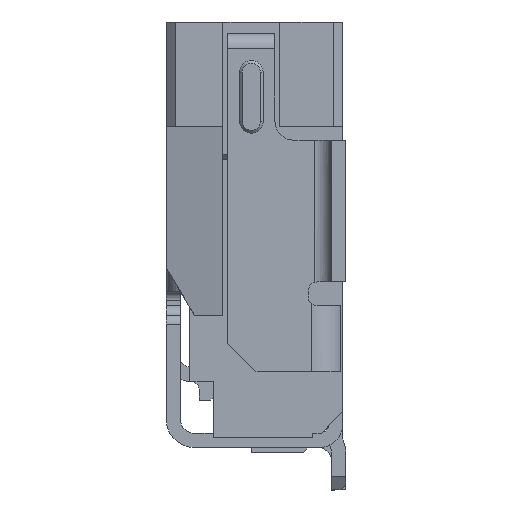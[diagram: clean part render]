
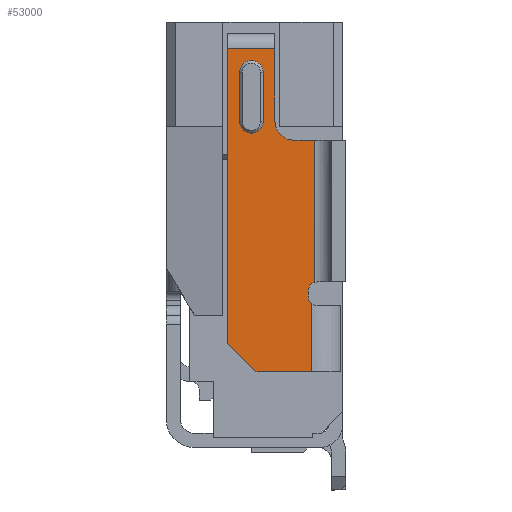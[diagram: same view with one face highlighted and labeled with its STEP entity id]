
A CAD part, left-side view. The second image highlights one B-rep face of the part: STEP entity #53000.
In plain terms, the highlighted planar face has unit normal (-1, 0, 0).
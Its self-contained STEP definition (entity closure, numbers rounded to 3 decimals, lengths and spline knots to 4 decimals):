
#1273 = VERTEX_POINT ( 'NONE', #27736 ) ;
#2344 = EDGE_CURVE ( 'NONE', #31735, #28872, #53810, .T. ) ;
#2533 = LINE ( 'NONE', #46653, #8216 ) ;
#3152 = DIRECTION ( 'NONE',  ( -1., 0., 0. ) ) ;
#3170 = ORIENTED_EDGE ( 'NONE', *, *, #46548, .F. ) ;
#3626 = AXIS2_PLACEMENT_3D ( 'NONE', #42837, #57767, #42517 ) ;
#4822 = CARTESIAN_POINT ( 'NONE',  ( -12.235, 0.34, 2.695 ) ) ;
#5136 = DIRECTION ( 'NONE',  ( 0., 1., 0. ) ) ;
#5339 = CARTESIAN_POINT ( 'NONE',  ( -12.235, 0.33, 1.725 ) ) ;
#5684 = EDGE_CURVE ( 'NONE', #16834, #59102, #38097, .T. ) ;
#6282 = ORIENTED_EDGE ( 'NONE', *, *, #6446, .F. ) ;
#6334 = DIRECTION ( 'NONE',  ( -1., 0., 0. ) ) ;
#6441 = AXIS2_PLACEMENT_3D ( 'NONE', #9264, #34237, #43949 ) ;
#6446 = EDGE_CURVE ( 'NONE', #56746, #28872, #56052, .T. ) ;
#7727 = CIRCLE ( 'NONE', #3626, 0.1 ) ;
#8216 = VECTOR ( 'NONE', #62210, 1000. ) ;
#8249 = ORIENTED_EDGE ( 'NONE', *, *, #43824, .F. ) ;
#8639 = EDGE_CURVE ( 'NONE', #1273, #9562, #24523, .T. ) ;
#9264 = CARTESIAN_POINT ( 'NONE',  ( -12.235, 0.3, 0.075 ) ) ;
#9292 = CARTESIAN_POINT ( 'NONE',  ( -12.235, 1., 1.925 ) ) ;
#9562 = VERTEX_POINT ( 'NONE', #64146 ) ;
#10118 = ORIENTED_EDGE ( 'NONE', *, *, #8639, .F. ) ;
#10244 = ORIENTED_EDGE ( 'NONE', *, *, #2344, .T. ) ;
#10539 = EDGE_CURVE ( 'NONE', #56746, #34884, #41815, .T. ) ;
#11511 = VERTEX_POINT ( 'NONE', #21100 ) ;
#11533 = DIRECTION ( 'NONE',  ( 0., 0., 1. ) ) ;
#11818 = ORIENTED_EDGE ( 'NONE', *, *, #23970, .T. ) ;
#11916 = EDGE_CURVE ( 'NONE', #9562, #40771, #40471, .T. ) ;
#12568 = CARTESIAN_POINT ( 'NONE',  ( -12.235, 1.25, -0.425 ) ) ;
#13204 = CARTESIAN_POINT ( 'NONE',  ( -12.235, 0., -0.725 ) ) ;
#13368 = VECTOR ( 'NONE', #60263, 1000. ) ;
#13468 = EDGE_CURVE ( 'NONE', #44143, #45513, #31327, .T. ) ;
#15125 = DIRECTION ( 'NONE',  ( -1., 0., 0. ) ) ;
#16834 = VERTEX_POINT ( 'NONE', #63269 ) ;
#17036 = CARTESIAN_POINT ( 'NONE',  ( -12.235, 1., 2.445 ) ) ;
#17759 = ORIENTED_EDGE ( 'NONE', *, *, #64006, .T. ) ;
#18058 = CARTESIAN_POINT ( 'NONE',  ( -12.235, 1.125, 2.445 ) ) ;
#18897 = VECTOR ( 'NONE', #42390, 1000. ) ;
#19302 = LINE ( 'NONE', #5339, #34247 ) ;
#19355 = DIRECTION ( 'NONE',  ( 0., -1., 0. ) ) ;
#19475 = VECTOR ( 'NONE', #51876, 1000. ) ;
#19780 = VERTEX_POINT ( 'NONE', #29050 ) ;
#20211 = CARTESIAN_POINT ( 'NONE',  ( -12.235, 1.25, 2.695 ) ) ;
#21100 = CARTESIAN_POINT ( 'NONE',  ( -12.235, 0.33, 0.2204 ) ) ;
#21514 = CARTESIAN_POINT ( 'NONE',  ( -12.235, 0.4, 0.125 ) ) ;
#21670 = VECTOR ( 'NONE', #47997, 1000. ) ;
#22942 = DIRECTION ( 'NONE',  ( 0., 1., 0. ) ) ;
#23361 = VECTOR ( 'NONE', #5136, 1000. ) ;
#23798 = DIRECTION ( 'NONE',  ( 0., -1., 0. ) ) ;
#23970 = EDGE_CURVE ( 'NONE', #58334, #44143, #48901, .T. ) ;
#24234 = FACE_BOUND ( 'NONE', #60143, .T. ) ;
#24523 = CIRCLE ( 'NONE', #57658, 0.2 ) ;
#24550 = PLANE ( 'NONE',  #43350 ) ;
#24822 = CARTESIAN_POINT ( 'NONE',  ( -12.235, 1.125, 1.925 ) ) ;
#25318 = ORIENTED_EDGE ( 'NONE', *, *, #55096, .F. ) ;
#25367 = ORIENTED_EDGE ( 'NONE', *, *, #5684, .F. ) ;
#26068 = CARTESIAN_POINT ( 'NONE',  ( -12.235, 1.125, 1.925 ) ) ;
#26881 = CARTESIAN_POINT ( 'NONE',  ( -12.235, 0.4, 0.075 ) ) ;
#27736 = CARTESIAN_POINT ( 'NONE',  ( -12.235, 0.75, 1.925 ) ) ;
#27744 = AXIS2_PLACEMENT_3D ( 'NONE', #17036, #6334, #45909 ) ;
#28290 = CARTESIAN_POINT ( 'NONE',  ( -12.235, 0.36, -0.005 ) ) ;
#28872 = VERTEX_POINT ( 'NONE', #20211 ) ;
#29050 = CARTESIAN_POINT ( 'NONE',  ( -12.235, 0.875, 1.925 ) ) ;
#29125 = CARTESIAN_POINT ( 'NONE',  ( -12.235, 0.36, -0.725 ) ) ;
#30377 = CARTESIAN_POINT ( 'NONE',  ( -12.235, 0.4, 0. ) ) ;
#31327 = LINE ( 'NONE', #30377, #47732 ) ;
#31605 = CARTESIAN_POINT ( 'NONE',  ( -12.235, 0.95, -0.725 ) ) ;
#31735 = VERTEX_POINT ( 'NONE', #44403 ) ;
#33163 = CIRCLE ( 'NONE', #64083, 0.125 ) ;
#34237 = DIRECTION ( 'NONE',  ( 1., 0., 0. ) ) ;
#34247 = VECTOR ( 'NONE', #39078, 1000. ) ;
#34474 = ORIENTED_EDGE ( 'NONE', *, *, #45593, .F. ) ;
#34590 = FACE_OUTER_BOUND ( 'NONE', #56659, .T. ) ;
#34884 = VERTEX_POINT ( 'NONE', #31605 ) ;
#36630 = CARTESIAN_POINT ( 'NONE',  ( -12.235, 1.25, -0.425 ) ) ;
#37487 = ORIENTED_EDGE ( 'NONE', *, *, #11916, .F. ) ;
#37941 = CARTESIAN_POINT ( 'NONE',  ( -12.235, 0.36, -0.025 ) ) ;
#38097 = CIRCLE ( 'NONE', #27744, 0.125 ) ;
#38348 = EDGE_CURVE ( 'NONE', #19780, #16834, #52528, .T. ) ;
#38703 = DIRECTION ( 'NONE',  ( -1., 0., 0. ) ) ;
#38741 = VECTOR ( 'NONE', #63463, 1000. ) ;
#38761 = EDGE_CURVE ( 'NONE', #54580, #19780, #33163, .T. ) ;
#39078 = DIRECTION ( 'NONE',  ( 0., 0., -1. ) ) ;
#39732 = ORIENTED_EDGE ( 'NONE', *, *, #10539, .T. ) ;
#40471 = LINE ( 'NONE', #52055, #13368 ) ;
#40699 = VECTOR ( 'NONE', #61074, 1000. ) ;
#40771 = VERTEX_POINT ( 'NONE', #41916 ) ;
#41274 = LINE ( 'NONE', #26068, #40699 ) ;
#41815 = LINE ( 'NONE', #55792, #19475 ) ;
#41916 = CARTESIAN_POINT ( 'NONE',  ( -12.235, 0.33, 1.725 ) ) ;
#42390 = DIRECTION ( 'NONE',  ( 0., 0., 1. ) ) ;
#42517 = DIRECTION ( 'NONE',  ( 0., -1., 0. ) ) ;
#42837 = CARTESIAN_POINT ( 'NONE',  ( -12.235, 0.3, 0.125 ) ) ;
#43094 = DIRECTION ( 'NONE',  ( 0., 0., 1. ) ) ;
#43236 = ORIENTED_EDGE ( 'NONE', *, *, #13468, .T. ) ;
#43350 = AXIS2_PLACEMENT_3D ( 'NONE', #49504, #15125, #19355 ) ;
#43824 = EDGE_CURVE ( 'NONE', #58334, #51910, #63554, .T. ) ;
#43949 = DIRECTION ( 'NONE',  ( 0., -1., 0. ) ) ;
#44143 = VERTEX_POINT ( 'NONE', #26881 ) ;
#44403 = CARTESIAN_POINT ( 'NONE',  ( -12.235, 0.75, 2.695 ) ) ;
#45513 = VERTEX_POINT ( 'NONE', #21514 ) ;
#45593 = EDGE_CURVE ( 'NONE', #59102, #54580, #41274, .T. ) ;
#45909 = DIRECTION ( 'NONE',  ( 0., 1., 0. ) ) ;
#46548 = EDGE_CURVE ( 'NONE', #51910, #34884, #48860, .T. ) ;
#46653 = CARTESIAN_POINT ( 'NONE',  ( -12.235, 0.75, -0.025 ) ) ;
#47732 = VECTOR ( 'NONE', #11533, 1000. ) ;
#47997 = DIRECTION ( 'NONE',  ( 0., 0., -1. ) ) ;
#48860 = LINE ( 'NONE', #13204, #38741 ) ;
#48901 = CIRCLE ( 'NONE', #6441, 0.1 ) ;
#49504 = CARTESIAN_POINT ( 'NONE',  ( -12.235, 0., -0.025 ) ) ;
#51876 = DIRECTION ( 'NONE',  ( 0., -0.707, -0.707 ) ) ;
#51910 = VERTEX_POINT ( 'NONE', #29125 ) ;
#52055 = CARTESIAN_POINT ( 'NONE',  ( -12.235, 0., 1.725 ) ) ;
#52528 = LINE ( 'NONE', #57720, #60066 ) ;
#53000 = ADVANCED_FACE ( 'NONE', ( #34590, #24234 ), #24550, .T. ) ;
#53304 = CARTESIAN_POINT ( 'NONE',  ( -12.235, 0.55, 1.925 ) ) ;
#53810 = LINE ( 'NONE', #4822, #23361 ) ;
#54580 = VERTEX_POINT ( 'NONE', #24822 ) ;
#54619 = EDGE_CURVE ( 'NONE', #40771, #11511, #19302, .T. ) ;
#55096 = EDGE_CURVE ( 'NONE', #31735, #1273, #2533, .T. ) ;
#55204 = ORIENTED_EDGE ( 'NONE', *, *, #54619, .F. ) ;
#55792 = CARTESIAN_POINT ( 'NONE',  ( -12.235, 0.95, -0.725 ) ) ;
#55992 = ORIENTED_EDGE ( 'NONE', *, *, #38761, .F. ) ;
#56052 = LINE ( 'NONE', #12568, #18897 ) ;
#56659 = EDGE_LOOP ( 'NONE', ( #37487, #10118, #25318, #10244, #6282, #39732, #3170, #8249, #11818, #43236, #17759, #55204 ) ) ;
#56746 = VERTEX_POINT ( 'NONE', #36630 ) ;
#57658 = AXIS2_PLACEMENT_3D ( 'NONE', #53304, #38703, #23798 ) ;
#57720 = CARTESIAN_POINT ( 'NONE',  ( -12.235, 0.875, 2.445 ) ) ;
#57767 = DIRECTION ( 'NONE',  ( 1., 0., 0. ) ) ;
#57822 = ORIENTED_EDGE ( 'NONE', *, *, #38348, .F. ) ;
#58334 = VERTEX_POINT ( 'NONE', #28290 ) ;
#59102 = VERTEX_POINT ( 'NONE', #18058 ) ;
#60066 = VECTOR ( 'NONE', #43094, 1000. ) ;
#60143 = EDGE_LOOP ( 'NONE', ( #57822, #55992, #34474, #25367 ) ) ;
#60263 = DIRECTION ( 'NONE',  ( 0., -1., 0. ) ) ;
#61074 = DIRECTION ( 'NONE',  ( 0., 0., -1. ) ) ;
#62210 = DIRECTION ( 'NONE',  ( 0., 0., -1. ) ) ;
#63269 = CARTESIAN_POINT ( 'NONE',  ( -12.235, 0.875, 2.445 ) ) ;
#63463 = DIRECTION ( 'NONE',  ( 0., 1., 0. ) ) ;
#63554 = LINE ( 'NONE', #37941, #21670 ) ;
#64006 = EDGE_CURVE ( 'NONE', #45513, #11511, #7727, .T. ) ;
#64083 = AXIS2_PLACEMENT_3D ( 'NONE', #9292, #3152, #22942 ) ;
#64146 = CARTESIAN_POINT ( 'NONE',  ( -12.235, 0.55, 1.725 ) ) ;
